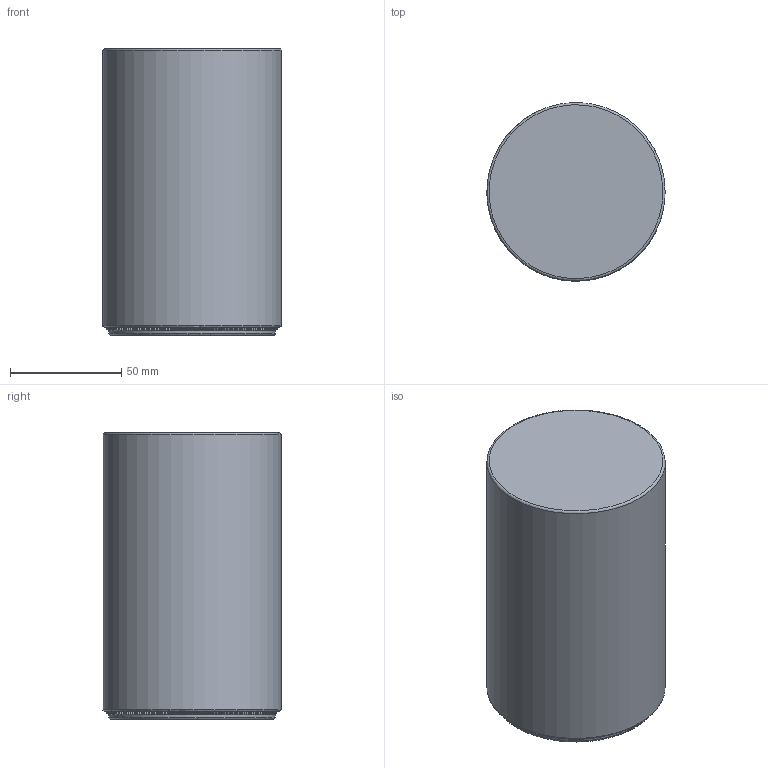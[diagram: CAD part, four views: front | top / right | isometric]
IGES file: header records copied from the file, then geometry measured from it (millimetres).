
Global section: file name: E:\\_Liczy si\X2\0119\X0\ s\X2\0142\X0\owo\\_Modelowanie SIGMA\\TUBO\\gotowe\\TUBO.igs; native system: HarmonyWare Translators; preprocessor: HarmonyWare IGES v2.1.4; date: 20250402.134946; units: centimetre
Bounding box: 79.99 x 79.94 x 128.79 mm (x, y, z)
Volume: 623139.3 mm3; surface area: 119001.2 mm2
Topology: 2 solids, 2 shells, 913 faces, 2193 edges, 1467 vertices
Faces by surface type: bspline 913
